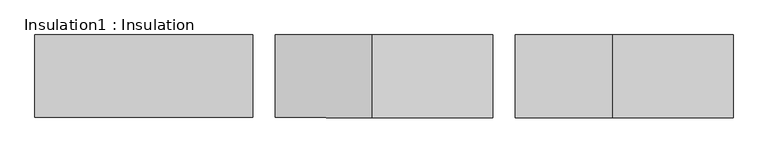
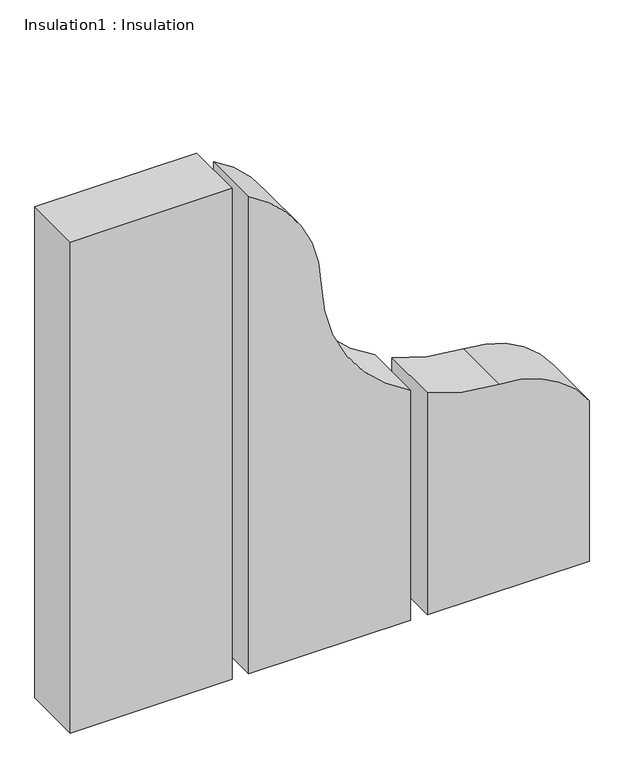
"""IFC4 building model written with IfcOpenShell, lengths in millimetres: proxy geometry, Insulation1 : Insulation."""

from ifc_helpers import new_model, si_unit, point, frame, frame_2d, origin, place, context, project, spatial, polyline, circle_curve, trimmed, segment, composite_curve, outline, extrude, source, transform, mapped, element, save


def insulation1_insulation_c7675874(model_context):
    return source(origin(), model_context, "Body", "SweptSolid", [
        extrude(outline(polyline([(-2255.6179718, 34285.6421435), (-2623.9179718, 34285.6421435), (-2623.9179718, 34425.3421435), (-2255.6179718, 34425.3421435), (-2255.6179718, 34285.6421435)])), frame((0.0, 0.0, 38.1), z_axis=(0.0, 0.0, 1.0), x_axis=(1.0, 0.0, 0.0)), (0.0, 0.0, 1.0), 1181.1),
        extrude(outline(composite_curve([segment(polyline([(38.1, -2217.5179718), (38.1, -1849.2179718), (591.8706469, -1849.2179718)]), True, "CONTINUOUS"), segment(trimmed(circle_curve(frame_2d((925.1337293, -1678.455762)), 374.4649709), [point((591.8706469, -1849.2179718))], [point((918.4023164, -2052.8602258))], True, "CARTESIAN"), True, "CONTINUOUS"), segment(trimmed(circle_curve(frame_2d((912.871688, -2360.4764748)), 307.6659626), [point((918.4023164, -2052.8602258))], [point((1185.3073886, -2217.5179718))], False, "CARTESIAN"), True, "CONTINUOUS"), segment(polyline([(1185.3073886, -2217.5179718), (38.1, -2217.5179718)]), True, "CONTINUOUS")], self_intersect=False)), frame((0.0, 34285.6421435, 0.0), z_axis=(0.0, 1.0, 0.0), x_axis=(0.0, 0.0, 1.0)), (0.0, 0.0, 1.0), 139.7),
        extrude(outline(composite_curve([segment(polyline([(38.1, -1811.1179718), (38.1, -1442.8179718), (424.2455858, -1442.8179718)]), True, "CONTINUOUS"), segment(trimmed(circle_curve(frame_2d((286.9857554, -1650.0282857)), 248.5485369), [point((424.2455858, -1442.8179718))], [point((535.510358, -1646.5790677))], False, "CARTESIAN"), True, "CONTINUOUS"), segment(trimmed(circle_curve(frame_2d((948.5891228, -1640.8460388)), 413.1185466), [point((535.510358, -1646.5790677))], [point((572.1925203, -1811.1179718))], True, "CARTESIAN"), True, "CONTINUOUS"), segment(polyline([(572.1925203, -1811.1179718), (38.1, -1811.1179718)]), True, "CONTINUOUS")], self_intersect=False)), frame((0.0, 34285.6421435, 0.0), z_axis=(0.0, 1.0, 0.0), x_axis=(0.0, 0.0, 1.0)), (0.0, 0.0, 1.0), 139.7),
    ])


if __name__ == "__main__":
    model = new_model("IFC4")
    model_context = context("Model", 3, world=origin())
    ifc_project = project(units=[si_unit("LENGTHUNIT", "METRE", prefix="MILLI")], contexts=[model_context])
    site = spatial("IfcSite", under=ifc_project)
    building = spatial("IfcBuilding", under=site)
    placement = place(None, origin())
    insulation1_insulation_shape = insulation1_insulation_c7675874(model_context)
    element("IfcBuildingElementProxy", 1, Name="Insulation1 : Insulation", ObjectType="Insulation1 : Insulation", at=placement, inside=building, context=model_context, shape_type="MappedRepresentation", body=[
        mapped(insulation1_insulation_shape, transform((0.0, 0.0, 0.0), x_axis=(1.0, 0.0, 0.0), y_axis=(0.0, 1.0, 0.0), z_axis=(0.0, 0.0, 1.0))),
    ])
    save(model, "model.ifc")
